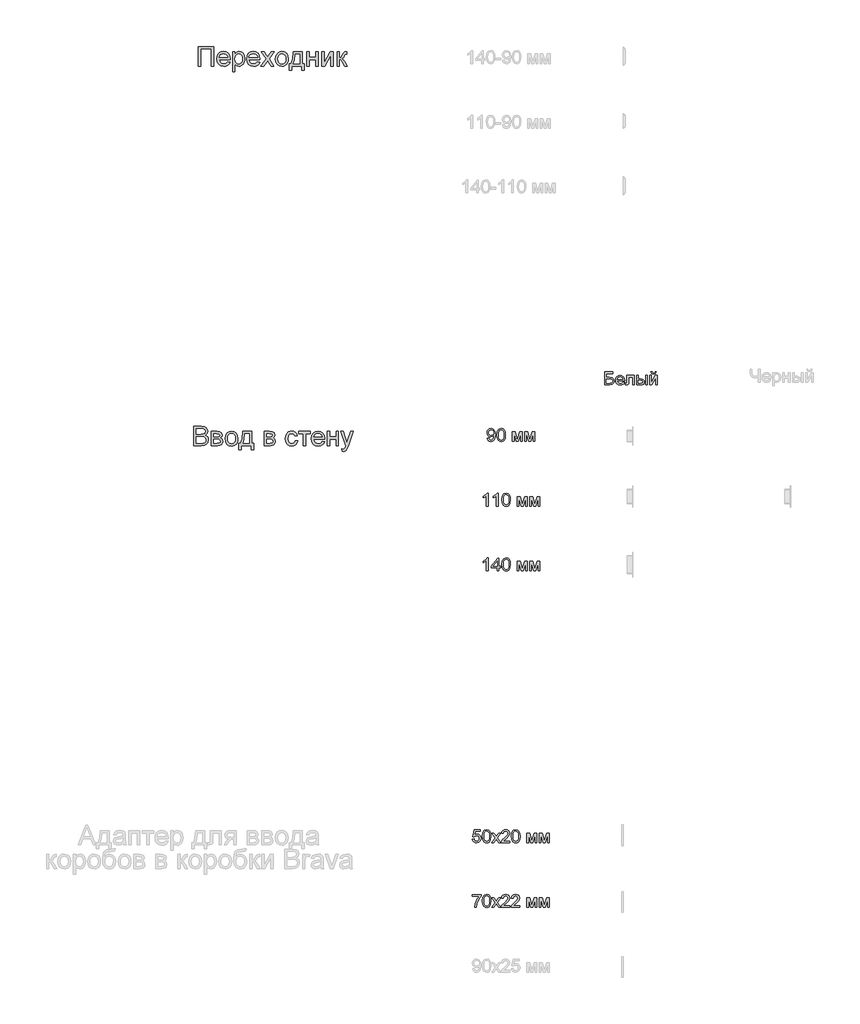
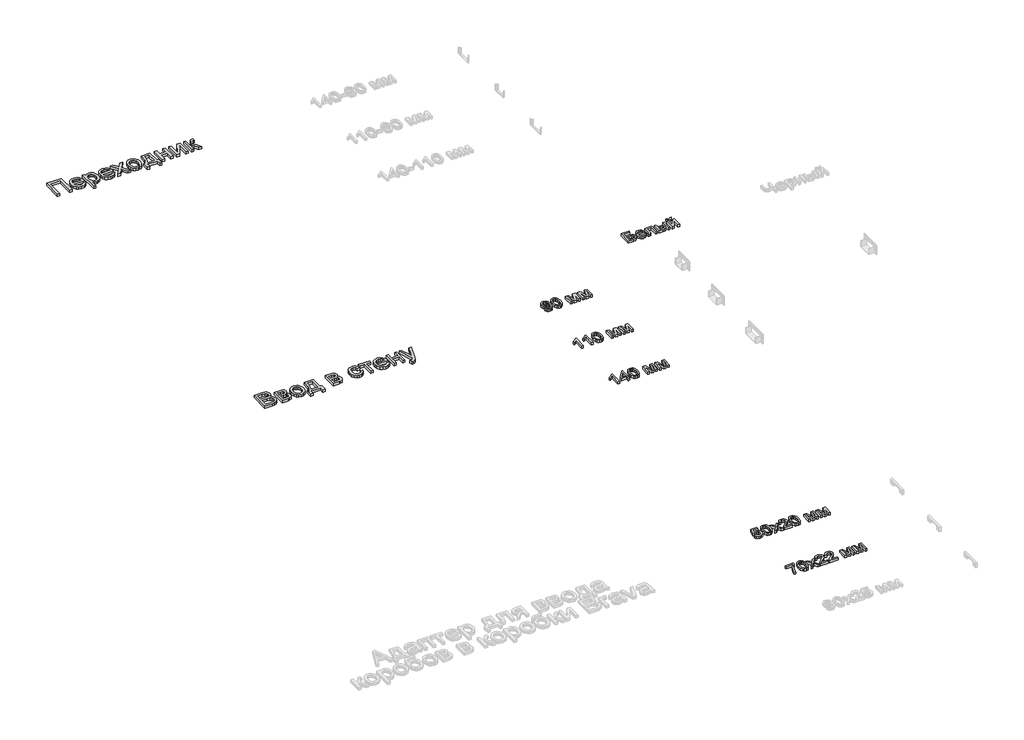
# One storey, part 5 of 48: 8 proxies.
"""IFC4 building model written with IfcOpenShell, lengths in millimetres."""

from ifc_helpers import new_model, si_unit, origin, origin_with_axes, place, context, project, spatial, polyline, outline, extrude, element, save

model = new_model("IFC4")

# Units and contexts
model_context = context("Model", 3, world=origin())
ifc_project = project(units=[si_unit("LENGTHUNIT", "METRE", prefix="MILLI")], contexts=[model_context])

# Site, building, storey
site = spatial("IfcSite", under=ifc_project)
building = spatial("IfcBuilding", under=site)
storey = spatial("IfcBuildingStorey", under=building, Name="Этаж 01", Elevation=0.0)

# Proxies
placement = place(None, origin())
element("IfcBuildingElementProxy", 1, Name="150 мм Arial", ObjectType="150 мм Arial", at=placement, inside=storey, context=model_context, shape_type="SweptSolid", body=[
    extrude(outline(polyline([(9672.1044953, -29075.3545442), (9789.8267338, -29075.3545442), (9789.8267338, -29226.0390094), (9770.9911756, -29226.0390094), (9770.9911756, -29094.1901023), (9690.9400535, -29094.1901023), (9690.9400535, -29226.0390094), (9672.1044953, -29226.0390094), (9672.1044953, -29075.3545442)])), origin_with_axes(), (0.0, 0.0, 1.0), 20.0),
    extrude(outline(polyline([(9897.910464, -29193.0767827), (9916.3781401, -29195.4312274), (9909.7240745, -29209.3463639), (9899.1060804, -29219.7482273), (9884.7632812, -29226.2321475), (9866.9348, -29228.3934542), (9844.8342891, -29224.6640505), (9827.8289439, -29213.4758393), (9816.9856221, -29195.5553876), (9813.3711815, -29171.6292623), (9817.0224103, -29146.8983952), (9827.9760967, -29128.4031279), (9844.7515157, -29116.8700273), (9865.8679422, -29113.0256605), (9886.3267796, -29116.8608303), (9902.6745358, -29128.3663397), (9913.3936974, -29146.8248188), (9916.9667513, -29171.5188977), (9916.8563867, -29176.5956693), (9832.2067396, -29176.5956693), (9835.4670938, -29190.6947467), (9843.0408644, -29201.0598219), (9853.9715582, -29207.4333775), (9867.302682, -29209.557896), (9885.7703581, -29205.6215587), (9897.910464, -29193.0767827)]), holes=[polyline([(9832.2067396, -29157.7601111), (9898.1311932, -29157.7601111), (9895.5836103, -29147.8089031), (9890.5896123, -29140.6903865), (9879.6083347, -29134.0685106), (9865.7943658, -29131.8612187), (9853.0978384, -29133.6224537), (9842.599406, -29138.9061589), (9835.3015469, -29147.142117), (9832.2067396, -29157.7601111)])]), origin_with_axes(), (0.0, 0.0, 1.0), 20.0),
    extrude(outline(polyline([(9935.8023095, -29268.4190153), (9935.8023095, -29115.3801053), (9954.6378676, -29115.3801053), (9954.6378676, -29133.8477814), (9967.6608902, -29118.2311907), (9985.2456496, -29113.0256605), (9997.9835637, -29114.8466764), (10009.1211911, -29120.309724), (10018.1894823, -29129.0837096), (10024.7193877, -29140.8375393), (10029.9801002, -29169.8634288), (10028.4947767, -29185.9720616), (10024.038806, -29200.3792403), (10016.7547425, -29212.3537992), (10006.7851404, -29221.164573), (9995.173865, -29226.5862339), (9982.9647812, -29228.3934542), (9966.5756384, -29223.555806), (9954.6378676, -29211.3237296), (9954.6378676, -29268.4190153), (9935.8023095, -29268.4190153)]), holes=[polyline([(9954.6378676, -29171.5924741), (9956.6750142, -29188.4782577), (9962.7864538, -29200.2872698), (9971.8041612, -29207.2402395), (9982.5601111, -29209.557896), (9993.4908048, -29207.157466), (10002.7384385, -29199.956176), (10009.0430162, -29187.7149026), (10011.1445421, -29170.1945226), (10009.0936, -29153.4007095), (10002.9407736, -29141.4261505), (9993.9368618, -29134.2524516), (9983.3326632, -29131.8612187), (9972.687078, -29134.4042029), (9963.3382768, -29142.0331558), (9956.8129699, -29154.508954), (9954.6378676, -29171.5924741)])]), origin_with_axes(), (0.0, 0.0, 1.0), 20.0),
    extrude(outline(polyline([(10128.6460513, -29193.0767827), (10147.1137275, -29195.4312274), (10140.4596619, -29209.3463639), (10129.8416678, -29219.7482273), (10115.4988685, -29226.2321475), (10097.6703873, -29228.3934542), (10075.5698765, -29224.6640505), (10058.5645313, -29213.4758393), (10047.7212095, -29195.5553876), (10044.1067688, -29171.6292623), (10047.7579976, -29146.8983952), (10058.7116841, -29128.4031279), (10075.487103, -29116.8700273), (10096.6035296, -29113.0256605), (10117.062367, -29116.8608303), (10133.4101232, -29128.3663397), (10144.1292848, -29146.8248188), (10147.7023387, -29171.5188977), (10147.5919741, -29176.5956693), (10062.942327, -29176.5956693), (10066.2026812, -29190.6947467), (10073.7764518, -29201.0598219), (10084.7071455, -29207.4333775), (10098.0382693, -29209.557896), (10116.5059455, -29205.6215587), (10128.6460513, -29193.0767827)]), holes=[polyline([(10062.942327, -29157.7601111), (10128.8667805, -29157.7601111), (10126.3191977, -29147.8089031), (10121.3251996, -29140.6903865), (10110.3439221, -29134.0685106), (10096.5299532, -29131.8612187), (10083.8334258, -29133.6224537), (10073.3349934, -29138.9061589), (10066.0371343, -29147.142117), (10062.942327, -29157.7601111)])]), origin_with_axes(), (0.0, 0.0, 1.0), 20.0),
    extrude(outline(polyline([(10154.765673, -29226.0390094), (10195.0119633, -29170.4152517), (10157.1201178, -29115.3801053), (10179.7816487, -29115.3801053), (10198.0653838, -29141.8676089), (10206.6002461, -29154.3755968), (10213.9946742, -29144.1484773), (10234.8167951, -29115.3801053), (10257.478326, -29115.3801053), (10217.6734942, -29170.4152517), (10256.0067981, -29226.0390094), (10233.3452672, -29226.0390094), (10210.2790661, -29192.5985361), (10206.0484231, -29186.4916949), (10177.4272039, -29226.0390094), (10154.765673, -29226.0390094)])), origin_with_axes(), (0.0, 0.0, 1.0), 20.0),
    extrude(outline(polyline([(10267.7790219, -29170.7095573), (10271.853315, -29144.0289156), (10284.0761943, -29125.2761309), (10299.1777502, -29116.0882781), (10317.2591503, -29113.0256605), (10337.0466031, -29116.7550642), (10352.8517333, -29127.9432754), (10363.21221, -29145.7073772), (10366.6657022, -29169.164453), (10365.1389919, -29188.1931492), (10360.5588611, -29202.6785027), (10353.0586669, -29213.5264231), (10342.7717666, -29221.6428196), (10330.5534859, -29226.7057955), (10317.2591503, -29228.3934542), (10297.2325742, -29224.677846), (10281.445838, -29213.5310216), (10271.1957259, -29195.3944392), (10267.7790219, -29170.7095573)]), holes=[polyline([(10286.6145801, -29170.6727691), (10288.7942809, -29187.7195011), (10295.3333834, -29199.8642055), (10305.1742267, -29207.1344734), (10317.2591503, -29209.557896), (10329.2888915, -29207.1206778), (10339.1113408, -29199.8090232), (10345.6504432, -29187.5033704), (10347.8301441, -29170.084158), (10345.6366477, -29153.5340667), (10339.0561585, -29141.5549092), (10329.2199136, -29134.2846413), (10317.2591503, -29131.8612187), (10305.1742267, -29134.2754442), (10295.3333834, -29141.518121), (10288.7942809, -29153.6352342), (10286.6145801, -29170.6727691)])]), origin_with_axes(), (0.0, 0.0, 1.0), 20.0),
    extrude(outline(polyline([(10404.3368185, -29115.3801053), (10474.9701616, -29115.3801053), (10474.9701616, -29207.2034513), (10489.0968302, -29207.2034513), (10489.0968302, -29256.6467914), (10470.2612721, -29256.6467914), (10470.2612721, -29226.0390094), (10392.5645947, -29226.0390094), (10392.5645947, -29256.6467914), (10373.7290365, -29256.6467914), (10373.7290365, -29207.2034513), (10385.5012604, -29207.2034513), (10394.0591153, -29191.7386119), (10400.0509933, -29171.2797744), (10404.3368185, -29115.3801053)]), holes=[polyline([(10420.8179319, -29134.2156634), (10416.403348, -29177.1290982), (10406.6912633, -29207.2034513), (10456.1346034, -29207.2034513), (10456.1346034, -29134.2156634), (10420.8179319, -29134.2156634)])]), origin_with_axes(), (0.0, 0.0, 1.0), 20.0),
    extrude(outline(polyline([(10510.2868331, -29115.3801053), (10529.1223913, -29115.3801053), (10529.1223913, -29157.7601111), (10578.5657314, -29157.7601111), (10578.5657314, -29115.3801053), (10597.4012896, -29115.3801053), (10597.4012896, -29226.0390094), (10578.5657314, -29226.0390094), (10578.5657314, -29176.5956693), (10529.1223913, -29176.5956693), (10529.1223913, -29226.0390094), (10510.2868331, -29226.0390094), (10510.2868331, -29115.3801053)])), origin_with_axes(), (0.0, 0.0, 1.0), 20.0),
    extrude(outline(polyline([(10625.6546268, -29115.3801053), (10644.490185, -29115.3801053), (10644.490185, -29199.772235), (10690.76974, -29115.3801053), (10715.123528, -29115.3801053), (10715.123528, -29226.0390094), (10696.2879699, -29226.0390094), (10696.2879699, -29142.1619145), (10650.3027205, -29226.0390094), (10625.6546268, -29226.0390094), (10625.6546268, -29115.3801053)])), origin_with_axes(), (0.0, 0.0, 1.0), 20.0),
    extrude(outline(polyline([(10743.3768653, -29115.3801053), (10762.2124234, -29115.3801053), (10762.2124234, -29162.4690007), (10774.8307759, -29159.0844863), (10785.1682599, -29139.3660114), (10793.7583045, -29122.3514691), (10801.3366736, -29116.8148451), (10815.1138543, -29115.3801053), (10818.7190979, -29115.3801053), (10818.7190979, -29134.326028), (10813.6423264, -29134.2156634), (10804.4452765, -29136.2022262), (10797.9705534, -29148.5998494), (10790.3737902, -29162.0091482), (10779.7236064, -29168.5758418), (10791.6061948, -29175.9058905), (10803.2680541, -29191.3477373), (10823.4279874, -29226.0390094), (10802.0172553, -29226.0390094), (10782.2619922, -29192.0835013), (10772.3291783, -29177.7177094), (10762.2124234, -29174.2412245), (10762.2124234, -29226.0390094), (10743.3768653, -29226.0390094), (10743.3768653, -29115.3801053)])), origin_with_axes(), (0.0, 0.0, 1.0), 20.0),
])
element("IfcBuildingElementProxy", 2, Name="150 мм Arial", ObjectType="150 мм Arial", at=placement, inside=storey, context=model_context, shape_type="SweptSolid", body=[
    extrude(outline(polyline([(9636.0075614, -32159.7913554), (9636.0075614, -32009.1068902), (9693.5075173, -32009.1068902), (9721.668884, -32013.5398682), (9731.1326483, -32019.1638642), (9738.2971502, -32027.1698962), (9744.3120208, -32046.4469127), (9739.2536434, -32064.0500662), (9723.9681465, -32077.3857885), (9734.6413229, -32082.9592007), (9742.5277931, -32091.4388807), (9747.397631, -32102.2638084), (9749.0209104, -32114.8729638), (9744.5879323, -32135.1248676), (9733.6066548, -32149.5458419), (9717.2175119, -32157.1977874), (9693.0660589, -32159.7913554), (9636.0075614, -32159.7913554)]), holes=[polyline([(9654.8431196, -32070.3224542), (9689.2400861, -32070.3224542), (9709.3264431, -32068.7037734), (9721.4113666, -32061.7324096), (9725.4764627, -32049.4635451), (9721.6872781, -32037.1762864), (9710.8347593, -32029.910617), (9686.628124, -32027.9424483), (9654.8431196, -32027.9424483), (9654.8431196, -32070.3224542)]), polyline([(9654.8431196, -32140.9557973), (9693.4707291, -32140.9557973), (9707.4502449, -32140.2200333), (9719.277651, -32136.118149), (9727.1135375, -32127.7488336), (9730.1853522, -32115.0569048), (9726.5801086, -32100.4152014), (9714.8998553, -32091.678004), (9691.6313191, -32089.1580123), (9654.8431196, -32089.1580123), (9654.8431196, -32140.9557973)])]), origin_with_axes(), (0.0, 0.0, 1.0), 20.0),
    extrude(outline(polyline([(9772.565358, -32049.1324513), (9814.0624471, -32049.1324513), (9836.8159485, -32051.6524429), (9849.6182419, -32060.886281), (9854.970925, -32076.9811183), (9851.7335634, -32090.0593232), (9841.9846905, -32099.3851318), (9854.6398312, -32109.5938572), (9859.6798145, -32127.3441634), (9856.4884382, -32141.7007583), (9848.900872, -32151.8083161), (9836.8895249, -32157.7955956), (9820.4268056, -32159.7913554), (9772.565358, -32159.7913554), (9772.565358, -32049.1324513)]), holes=[polyline([(9791.4009162, -32091.5124571), (9810.0157452, -32091.5124571), (9825.3748185, -32090.5559639), (9832.842823, -32086.7299912), (9836.1353668, -32079.8138097), (9834.69143, -32074.1944122), (9830.3596195, -32070.5799716), (9810.6043563, -32067.9680094), (9791.4009162, -32067.9680094), (9791.4009162, -32091.5124571)]), polyline([(9791.4009162, -32140.9557973), (9814.5039055, -32140.9557973), (9834.9949326, -32137.5528888), (9839.2347726, -32132.9129771), (9840.8442563, -32125.7990591), (9837.6252889, -32116.7307679), (9829.2375794, -32111.4516613), (9812.6644955, -32110.3480153), (9791.4009162, -32110.3480153), (9791.4009162, -32140.9557973)])]), origin_with_axes(), (0.0, 0.0, 1.0), 20.0),
    extrude(outline(polyline([(9878.5153727, -32104.4619033), (9882.5896658, -32077.7812616), (9894.812545, -32059.0284769), (9909.9141009, -32049.8406241), (9927.995501, -32046.7780065), (9947.7829538, -32050.5074102), (9963.588084, -32061.6956214), (9973.9485607, -32079.4597232), (9977.402053, -32102.916799), (9975.8753427, -32121.9454952), (9971.2952118, -32136.4308487), (9963.7950177, -32147.2787691), (9953.5081174, -32155.3951656), (9941.2898366, -32160.4581415), (9927.995501, -32162.1458002), (9907.9689249, -32158.430192), (9892.1821888, -32147.2833676), (9881.9320767, -32129.1467852), (9878.5153727, -32104.4619033)]), holes=[polyline([(9897.3509308, -32104.4251151), (9899.5306316, -32121.4718471), (9906.0697341, -32133.6165515), (9915.9105775, -32140.8868194), (9927.995501, -32143.310242), (9940.0252422, -32140.8730238), (9949.8476915, -32133.5613692), (9956.386794, -32121.2557164), (9958.5664948, -32103.836504), (9956.3729984, -32087.2864127), (9949.7925092, -32075.3072552), (9939.9562644, -32068.0369873), (9927.995501, -32065.6135647), (9915.9105775, -32068.0277902), (9906.0697341, -32075.270467), (9899.5306316, -32087.3875802), (9897.3509308, -32104.4251151)])]), origin_with_axes(), (0.0, 0.0, 1.0), 20.0),
    extrude(outline(polyline([(10015.0731693, -32049.1324513), (10085.7065123, -32049.1324513), (10085.7065123, -32140.9557973), (10099.833181, -32140.9557973), (10099.833181, -32190.3991374), (10080.9976228, -32190.3991374), (10080.9976228, -32159.7913554), (10003.3009454, -32159.7913554), (10003.3009454, -32190.3991374), (9984.4653873, -32190.3991374), (9984.4653873, -32140.9557973), (9996.2376111, -32140.9557973), (10004.795466, -32125.4909579), (10010.787344, -32105.0321204), (10015.0731693, -32049.1324513)]), holes=[polyline([(10031.5542826, -32067.9680094), (10027.1396987, -32110.8814442), (10017.427614, -32140.9557973), (10066.8709542, -32140.9557973), (10066.8709542, -32067.9680094), (10031.5542826, -32067.9680094)])]), origin_with_axes(), (0.0, 0.0, 1.0), 20.0),
    extrude(outline(polyline([(10179.8843031, -32049.1324513), (10221.3813922, -32049.1324513), (10244.1348936, -32051.6524429), (10256.937187, -32060.886281), (10262.28987, -32076.9811183), (10259.0525085, -32090.0593232), (10249.3036356, -32099.3851318), (10261.9587762, -32109.5938572), (10266.9987596, -32127.3441634), (10263.8073833, -32141.7007583), (10256.2198171, -32151.8083161), (10244.20847, -32157.7955956), (10227.7457507, -32159.7913554), (10179.8843031, -32159.7913554), (10179.8843031, -32049.1324513)]), holes=[polyline([(10198.7198613, -32091.5124571), (10217.3346902, -32091.5124571), (10232.6937635, -32090.5559639), (10240.161768, -32086.7299912), (10243.4543119, -32079.8138097), (10242.010375, -32074.1944122), (10237.6785645, -32070.5799716), (10217.9233014, -32067.9680094), (10198.7198613, -32067.9680094), (10198.7198613, -32091.5124571)]), polyline([(10198.7198613, -32140.9557973), (10221.8228506, -32140.9557973), (10242.3138777, -32137.5528888), (10246.5537177, -32132.9129771), (10248.1632014, -32125.7990591), (10244.944234, -32116.7307679), (10236.5565245, -32111.4516613), (10219.9834406, -32110.3480153), (10198.7198613, -32110.3480153), (10198.7198613, -32140.9557973)])]), origin_with_axes(), (0.0, 0.0, 1.0), 20.0),
    extrude(outline(polyline([(10420.0376696, -32119.7657943), (10438.8732277, -32122.1202391), (10433.6217122, -32138.8726655), (10423.7532777, -32151.5324046), (10410.1968262, -32159.4924513), (10393.8812597, -32162.1458002), (10373.8454865, -32158.4439876), (10358.1783121, -32147.3385499), (10348.0661557, -32129.3169306), (10344.6954369, -32104.8665735), (10346.1347753, -32088.1049501), (10350.4527902, -32073.5782098), (10357.7184596, -32061.8473727), (10368.0007613, -32053.4734588), (10380.3018156, -32048.4518696), (10393.6237423, -32046.7780065), (10409.5392371, -32049.077269), (10422.2633556, -32055.9750564), (10431.3914276, -32067.1034867), (10436.5187829, -32082.094678), (10417.6832248, -32084.4491228), (10408.9460274, -32070.3408483), (10393.7708951, -32065.6135647), (10381.5985996, -32067.9404183), (10371.9370987, -32074.9209791), (10365.632521, -32086.9323263), (10363.5309951, -32104.3515387), (10365.5865357, -32122.005276), (10371.7531577, -32134.0580099), (10381.2399146, -32140.997184), (10393.2558603, -32143.310242), (10403.0093317, -32141.8663052), (10411.0061666, -32137.5344947), (10416.8233006, -32130.204446), (10420.0376696, -32119.7657943)])), origin_with_axes(), (0.0, 0.0, 1.0), 20.0),
    extrude(outline(polyline([(10445.936562, -32049.1324513), (10535.4054632, -32049.1324513), (10535.4054632, -32067.9680094), (10500.0887917, -32067.9680094), (10500.0887917, -32159.7913554), (10481.2532336, -32159.7913554), (10481.2532336, -32067.9680094), (10445.936562, -32067.9680094), (10445.936562, -32049.1324513)])), origin_with_axes(), (0.0, 0.0, 1.0), 20.0),
    extrude(outline(polyline([(10629.3625248, -32126.8291287), (10647.830201, -32129.1835734), (10641.1761354, -32143.0987099), (10630.5581413, -32153.5005733), (10616.215342, -32159.9844935), (10598.3868608, -32162.1458002), (10576.28635, -32158.4163965), (10559.2810047, -32147.2281853), (10548.4376829, -32129.3077336), (10544.8232423, -32105.3816083), (10548.4744711, -32080.6507412), (10559.4281575, -32062.1554739), (10576.2035765, -32050.6223733), (10597.320003, -32046.7780065), (10617.7788405, -32050.6131763), (10634.1265966, -32062.1186857), (10644.8457583, -32080.5771648), (10648.4188122, -32105.2712437), (10648.3084476, -32110.3480153), (10563.6588005, -32110.3480153), (10566.9191547, -32124.4470927), (10574.4929252, -32134.8121679), (10585.423619, -32141.1857235), (10598.7547428, -32143.310242), (10617.222419, -32139.3739047), (10629.3625248, -32126.8291287)]), holes=[polyline([(10563.6588005, -32091.5124571), (10629.583254, -32091.5124571), (10627.0356712, -32081.5612491), (10622.0416731, -32074.4427325), (10611.0603956, -32067.8208566), (10597.2464266, -32065.6135647), (10584.5498993, -32067.3747997), (10574.0514668, -32072.6585049), (10566.7536078, -32080.894463), (10563.6588005, -32091.5124571)])]), origin_with_axes(), (0.0, 0.0, 1.0), 20.0),
    extrude(outline(polyline([(10667.2543703, -32049.1324513), (10686.0899285, -32049.1324513), (10686.0899285, -32091.5124571), (10735.5332686, -32091.5124571), (10735.5332686, -32049.1324513), (10754.3688268, -32049.1324513), (10754.3688268, -32159.7913554), (10735.5332686, -32159.7913554), (10735.5332686, -32110.3480153), (10686.0899285, -32110.3480153), (10686.0899285, -32159.7913554), (10667.2543703, -32159.7913554), (10667.2543703, -32049.1324513)])), origin_with_axes(), (0.0, 0.0, 1.0), 20.0),
    extrude(outline(polyline([(10782.622164, -32202.1713613), (10780.2677192, -32184.0347789), (10789.8326511, -32185.6902479), (10798.7721836, -32183.6117146), (10804.2536253, -32177.8175732), (10809.4039733, -32163.948422), (10810.8755012, -32159.3866852), (10770.8499402, -32049.1324513), (10790.7155679, -32049.1324513), (10811.942359, -32110.5687445), (10819.3367871, -32135.1432617), (10826.7312152, -32113.438224), (10848.5466175, -32049.1324513), (10868.2650925, -32049.1324513), (10829.7478476, -32162.4401058), (10819.7414573, -32187.0146231), (10808.8153621, -32200.2951631), (10794.1368705, -32204.525806), (10782.622164, -32202.1713613)])), origin_with_axes(), (0.0, 0.0, 1.0), 20.0),
])
element("IfcBuildingElementProxy", 3, Name="100 мм Arial", ObjectType="100 мм Arial", at=placement, inside=storey, context=model_context, shape_type="SweptSolid", body=[
    extrude(outline(polyline([(11903.6293388, -32101.3348083), (11916.1863775, -32099.7651784), (11921.8272348, -32111.7458687), (11932.5203381, -32115.4614769), (11942.6861439, -32113.0702439), (11949.5778, -32106.6813599), (11953.6858156, -32095.7675274), (11955.5007001, -32081.1994004), (11955.4271237, -32078.7468538), (11945.3839452, -32088.2627347), (11931.6128959, -32091.9170292), (11920.1625688, -32089.6852118), (11910.6313594, -32082.9897595), (11904.2026216, -32072.646144), (11902.0597089, -32059.4698372), (11904.3068548, -32045.8582034), (11911.0482923, -32035.1896256), (11921.1742443, -32028.2918381), (11933.5749332, -32025.9925757), (11951.4662609, -32031.2410255), (11963.778045, -32046.2015599), (11967.9841625, -32074.3077444), (11963.7903077, -32104.8051618), (11958.5755804, -32114.7962236), (11951.3191081, -32122.0833528), (11942.3335904, -32126.534725), (11931.9317269, -32128.0185157), (11921.195704, -32126.2680105), (11912.6301849, -32121.016495), (11906.6398398, -32112.595063), (11903.6293388, -32101.3348083)]), holes=[polyline([(11955.4271237, -32059.1755316), (11954.0720917, -32050.6651948), (11950.0069956, -32044.1168953), (11943.6978194, -32039.9414347), (11935.6105469, -32038.5496144), (11927.2228374, -32040.0487336), (11920.5028596, -32044.546091), (11916.0882757, -32051.42855), (11914.6167477, -32060.0829739), (11916.0085679, -32067.8422183), (11920.1840286, -32074.001176), (11926.7384594, -32078.0202868), (11935.2671904, -32079.3599904), (11949.7494782, -32074.001176), (11954.0077123, -32067.6153577), (11955.4271237, -32059.1755316)])]), origin_with_axes(), (0.0, 0.0, 1.0), 20.0),
    extrude(outline(polyline([(11978.9715714, -32077.0300711), (11982.6626541, -32048.126809), (11993.6255375, -32031.4617547), (12011.9337982, -32025.9925757), (12026.600027, -32029.2299372), (12036.7290446, -32038.5618772), (12042.6151566, -32053.4243098), (12044.8960249, -32077.0300711), (12041.2417304, -32105.8107059), (12030.3156352, -32122.5125485), (12022.0842755, -32126.6420239), (12011.9337982, -32128.0185157), (11998.8862501, -32125.6272827), (11988.9779617, -32118.4535838), (11981.473169, -32101.463567), (11978.9715714, -32077.0300711)]), holes=[polyline([(11991.5286102, -32077.0055457), (11993.0001381, -32096.7577431), (11997.4147221, -32108.1896761), (12003.9875471, -32113.6435267), (12011.9337982, -32115.4614769), (12019.8800493, -32113.6373953), (12026.4528742, -32108.1651507), (12030.8674582, -32096.7270863), (12032.3389862, -32077.0055457), (12030.9165091, -32057.6978723), (12026.649078, -32046.1770345), (12020.0885157, -32040.4564694), (12011.7866454, -32038.5496144), (12003.9262334, -32040.2296089), (11997.6109258, -32045.2695922), (11993.0491891, -32057.5077999), (11991.5286102, -32077.0055457)])]), origin_with_axes(), (0.0, 0.0, 1.0), 20.0),
    extrude(outline(polyline([(12098.2634397, -32052.6762831), (12119.8703755, -32052.6762831), (12136.5231672, -32111.733606), (12154.4758086, -32052.6762831), (12175.1753022, -32052.6762831), (12175.1753022, -32126.4488858), (12162.6182634, -32126.4488858), (12162.6182634, -32067.0482063), (12144.5675202, -32126.4488858), (12128.0864068, -32126.4488858), (12110.8204785, -32064.2032522), (12110.8204785, -32126.4488858), (12098.2634397, -32126.4488858), (12098.2634397, -32052.6762831)])), origin_with_axes(), (0.0, 0.0, 1.0), 20.0),
    extrude(outline(polyline([(12194.0108603, -32052.6762831), (12215.6177962, -32052.6762831), (12232.2705878, -32111.733606), (12250.2232292, -32052.6762831), (12270.9227228, -32052.6762831), (12270.9227228, -32126.4488858), (12258.365684, -32126.4488858), (12258.365684, -32067.0482063), (12240.3149408, -32126.4488858), (12223.8338274, -32126.4488858), (12206.5678991, -32064.2032522), (12206.5678991, -32126.4488858), (12194.0108603, -32126.4488858), (12194.0108603, -32052.6762831)])), origin_with_axes(), (0.0, 0.0, 1.0), 20.0),
])
element("IfcBuildingElementProxy", 4, Name="100 мм Arial", ObjectType="100 мм Arial", at=placement, inside=storey, context=model_context, shape_type="SweptSolid", body=[
    extrude(outline(polyline([(11910.6926731, -32626.4488858), (11898.1356343, -32626.4488858), (11898.1356343, -32548.1635972), (11886.2407831, -32556.6371459), (11873.0215568, -32562.9769789), (11873.0215568, -32551.1066532), (11891.4279193, -32539.3589548), (11902.5992692, -32525.9925757), (11910.6926731, -32525.9925757), (11910.6926731, -32626.4488858)])), origin_with_axes(), (0.0, 0.0, 1.0), 20.0),
    extrude(outline(polyline([(11987.6045355, -32626.4488858), (11975.0474968, -32626.4488858), (11975.0474968, -32548.1635972), (11963.1526456, -32556.6371459), (11949.9334192, -32562.9769789), (11949.9334192, -32551.1066532), (11968.3397817, -32539.3589548), (11979.5111316, -32525.9925757), (11987.6045355, -32525.9925757), (11987.6045355, -32626.4488858)])), origin_with_axes(), (0.0, 0.0, 1.0), 20.0),
    extrude(outline(polyline([(12017.4275026, -32577.0300711), (12021.1185853, -32548.126809), (12032.0814688, -32531.4617547), (12050.3897294, -32525.9925757), (12065.0559583, -32529.2299372), (12075.1849759, -32538.5618772), (12081.0710878, -32553.4243098), (12083.3519562, -32577.0300711), (12079.6976617, -32605.8107059), (12068.7715664, -32622.5125485), (12060.5402068, -32626.6420239), (12050.3897294, -32628.0185157), (12037.3421813, -32625.6272827), (12027.4338929, -32618.4535838), (12019.9291002, -32601.463567), (12017.4275026, -32577.0300711)]), holes=[polyline([(12029.9845414, -32577.0055457), (12031.4560694, -32596.7577431), (12035.8706533, -32608.1896761), (12042.4434783, -32613.6435267), (12050.3897294, -32615.4614769), (12058.3359805, -32613.6373953), (12064.9088055, -32608.1651507), (12069.3233894, -32596.7270863), (12070.7949174, -32577.0055457), (12069.3724403, -32557.6978723), (12065.1050092, -32546.1770345), (12058.5444469, -32540.4564694), (12050.2425766, -32538.5496144), (12042.3821646, -32540.2296089), (12036.066857, -32545.2695922), (12031.5051203, -32557.5077999), (12029.9845414, -32577.0055457)])]), origin_with_axes(), (0.0, 0.0, 1.0), 20.0),
    extrude(outline(polyline([(12136.7193709, -32552.6762831), (12158.3263068, -32552.6762831), (12174.9790984, -32611.733606), (12192.9317398, -32552.6762831), (12213.6312334, -32552.6762831), (12213.6312334, -32626.4488858), (12201.0741946, -32626.4488858), (12201.0741946, -32567.0482063), (12183.0234514, -32626.4488858), (12166.542338, -32626.4488858), (12149.2764097, -32564.2032522), (12149.2764097, -32626.4488858), (12136.7193709, -32626.4488858), (12136.7193709, -32552.6762831)])), origin_with_axes(), (0.0, 0.0, 1.0), 20.0),
    extrude(outline(polyline([(12232.4667915, -32552.6762831), (12254.0737274, -32552.6762831), (12270.726519, -32611.733606), (12288.6791604, -32552.6762831), (12309.378654, -32552.6762831), (12309.378654, -32626.4488858), (12296.8216152, -32626.4488858), (12296.8216152, -32567.0482063), (12278.770872, -32626.4488858), (12262.2897586, -32626.4488858), (12245.0238303, -32564.2032522), (12245.0238303, -32626.4488858), (12232.4667915, -32626.4488858), (12232.4667915, -32552.6762831)])), origin_with_axes(), (0.0, 0.0, 1.0), 20.0),
])
element("IfcBuildingElementProxy", 5, Name="100 мм Arial", ObjectType="100 мм Arial", at=placement, inside=storey, context=model_context, shape_type="SweptSolid", body=[
    extrude(outline(polyline([(11910.6926731, -33126.4488858), (11898.1356343, -33126.4488858), (11898.1356343, -33048.1635972), (11886.2407831, -33056.6371459), (11873.0215568, -33062.9769789), (11873.0215568, -33051.1066532), (11891.4279193, -33039.3589548), (11902.5992692, -33025.9925757), (11910.6926731, -33025.9925757), (11910.6926731, -33126.4488858)])), origin_with_axes(), (0.0, 0.0, 1.0), 20.0),
    extrude(outline(polyline([(11981.3260162, -33126.4488858), (11981.3260162, -33102.9044381), (11935.8067506, -33102.9044381), (11935.8067506, -33090.3473994), (11984.4652759, -33027.5622055), (11993.8830549, -33027.5622055), (11993.8830549, -33090.3473994), (12006.4400937, -33090.3473994), (12006.4400937, -33102.9044381), (11993.8830549, -33102.9044381), (11993.8830549, -33126.4488858), (11981.3260162, -33126.4488858)]), holes=[polyline([(11981.3260162, -33090.3473994), (11981.3260162, -33051.5481116), (11951.2577944, -33090.3473994), (11981.3260162, -33090.3473994)])]), origin_with_axes(), (0.0, 0.0, 1.0), 20.0),
    extrude(outline(polyline([(12017.4275026, -33077.0300711), (12021.1185853, -33048.126809), (12032.0814688, -33031.4617547), (12050.3897294, -33025.9925757), (12065.0559583, -33029.2299372), (12075.1849759, -33038.5618772), (12081.0710878, -33053.4243098), (12083.3519562, -33077.0300711), (12079.6976617, -33105.8107059), (12068.7715664, -33122.5125485), (12060.5402068, -33126.6420239), (12050.3897294, -33128.0185157), (12037.3421813, -33125.6272827), (12027.4338929, -33118.4535838), (12019.9291002, -33101.463567), (12017.4275026, -33077.0300711)]), holes=[polyline([(12029.9845414, -33077.0055457), (12031.4560694, -33096.7577431), (12035.8706533, -33108.1896761), (12042.4434783, -33113.6435267), (12050.3897294, -33115.4614769), (12058.3359805, -33113.6373953), (12064.9088055, -33108.1651507), (12069.3233894, -33096.7270863), (12070.7949174, -33077.0055457), (12069.3724403, -33057.6978723), (12065.1050092, -33046.1770345), (12058.5444469, -33040.4564694), (12050.2425766, -33038.5496144), (12042.3821646, -33040.2296089), (12036.066857, -33045.2695922), (12031.5051203, -33057.5077999), (12029.9845414, -33077.0055457)])]), origin_with_axes(), (0.0, 0.0, 1.0), 20.0),
    extrude(outline(polyline([(12136.7193709, -33052.6762831), (12158.3263068, -33052.6762831), (12174.9790984, -33111.733606), (12192.9317398, -33052.6762831), (12213.6312334, -33052.6762831), (12213.6312334, -33126.4488858), (12201.0741946, -33126.4488858), (12201.0741946, -33067.0482063), (12183.0234514, -33126.4488858), (12166.542338, -33126.4488858), (12149.2764097, -33064.2032522), (12149.2764097, -33126.4488858), (12136.7193709, -33126.4488858), (12136.7193709, -33052.6762831)])), origin_with_axes(), (0.0, 0.0, 1.0), 20.0),
    extrude(outline(polyline([(12232.4667915, -33052.6762831), (12254.0737274, -33052.6762831), (12270.726519, -33111.733606), (12288.6791604, -33052.6762831), (12309.378654, -33052.6762831), (12309.378654, -33126.4488858), (12296.8216152, -33126.4488858), (12296.8216152, -33067.0482063), (12278.770872, -33126.4488858), (12262.2897586, -33126.4488858), (12245.0238303, -33064.2032522), (12245.0238303, -33126.4488858), (12232.4667915, -33126.4488858), (12232.4667915, -33052.6762831)])), origin_with_axes(), (0.0, 0.0, 1.0), 20.0),
])
element("IfcBuildingElementProxy", 6, Name="100 мм Arial", ObjectType="100 мм Arial", at=placement, inside=storey, context=model_context, shape_type="SweptSolid", body=[
    extrude(outline(polyline([(12811.066508, -31589.5825796), (12873.8517019, -31589.5825796), (12873.8517019, -31602.1396184), (12823.6235468, -31602.1396184), (12823.6235468, -31631.9625854), (12847.143469, -31631.9625854), (12867.8674881, -31634.5132339), (12880.2037976, -31644.1517422), (12884.8391108, -31660.6328556), (12881.5404356, -31674.9434652), (12871.6934608, -31685.8205095), (12849.3998119, -31690.0388898), (12811.066508, -31690.0388898), (12811.066508, -31589.5825796)]), holes=[polyline([(12823.6235468, -31677.481851), (12850.5279834, -31677.481851), (12866.8374185, -31673.3370472), (12870.9209086, -31668.1560424), (12872.282072, -31660.9026357), (12869.1673378, -31651.0679237), (12860.4975854, -31645.8194739), (12841.5761881, -31644.5196242), (12823.6235468, -31644.5196242), (12823.6235468, -31677.481851)])]), origin_with_axes(), (0.0, 0.0, 1.0), 20.0),
    extrude(outline(polyline([(12952.1860414, -31668.0640719), (12964.4978255, -31669.6337018), (12960.0617817, -31678.9104594), (12952.983119, -31685.845035), (12943.4212528, -31690.1676484), (12931.5355987, -31691.6085196), (12916.8019248, -31689.1222504), (12905.465028, -31681.663443), (12898.2361468, -31669.7164752), (12895.8265197, -31653.765725), (12898.2606722, -31637.2784803), (12905.5631298, -31624.9483021), (12916.7467425, -31617.2595684), (12930.8243602, -31614.6966571), (12944.4635851, -31617.253437), (12955.3620893, -31624.9237766), (12962.508197, -31637.2294293), (12964.8902329, -31653.6921486), (12964.8166565, -31657.076663), (12908.3835585, -31657.076663), (12910.5571279, -31666.476048), (12915.6063083, -31673.3860981), (12922.8934375, -31677.6351351), (12931.7808534, -31679.0514808), (12944.0926375, -31676.4272559), (12952.1860414, -31668.0640719)]), holes=[polyline([(12908.3835585, -31644.5196242), (12952.3331942, -31644.5196242), (12947.3054736, -31633.1398078), (12939.9846219, -31628.7252239), (12930.7753092, -31627.2536959), (12915.3120027, -31631.9503227), (12910.4467633, -31637.4409615), (12908.3835585, -31644.5196242)])]), origin_with_axes(), (0.0, 0.0, 1.0), 20.0),
    extrude(outline(polyline([(12983.7257911, -31616.266287), (13040.2324655, -31616.266287), (13040.2324655, -31689.9653134), (13027.6754268, -31689.9653134), (13027.6754268, -31628.8233258), (12996.2828298, -31628.8233258), (12996.2828298, -31664.01737), (12995.4367013, -31680.2532287), (12990.7891254, -31687.1080965), (12979.8017165, -31690.0388898), (12969.5991225, -31689.4012276), (12969.5991225, -31677.481851), (12975.2154543, -31677.481851), (12980.8930997, -31676.7092988), (12983.1617054, -31674.2567522), (12983.7257911, -31663.3061314), (12983.7257911, -31616.266287)])), origin_with_axes(), (0.0, 0.0, 1.0), 20.0),
    extrude(outline(polyline([(13128.1317369, -31616.266287), (13140.6887757, -31616.266287), (13140.6887757, -31690.0388898), (13128.1317369, -31690.0388898), (13128.1317369, -31616.266287)])), origin_with_axes(), (0.0, 0.0, 1.0), 20.0),
    extrude(outline(polyline([(13059.0680237, -31616.266287), (13071.6250625, -31616.266287), (13071.6250625, -31642.9499944), (13087.1496827, -31642.9499944), (13100.5681784, -31644.5226899), (13110.5101894, -31649.2407765), (13116.6630157, -31656.7241094), (13118.7139578, -31666.5925439), (13116.9941095, -31675.5780617), (13111.8345645, -31683.1594964), (13102.8980977, -31688.3190414), (13089.847484, -31690.0388898), (13059.0680237, -31690.0388898), (13059.0680237, -31616.266287)]), holes=[polyline([(13071.6250625, -31677.481851), (13084.5254578, -31677.481851), (13101.1782494, -31674.8453634), (13106.1569191, -31666.6170694), (13102.4658364, -31658.8915475), (13086.168664, -31655.5070331), (13071.6250625, -31655.5070331), (13071.6250625, -31677.481851)])]), origin_with_axes(), (0.0, 0.0, 1.0), 20.0),
    extrude(outline(polyline([(13159.5243338, -31616.266287), (13172.0813726, -31616.266287), (13172.0813726, -31672.5277068), (13202.9344093, -31616.266287), (13219.170268, -31616.266287), (13219.170268, -31690.0388898), (13206.6132292, -31690.0388898), (13206.6132292, -31634.1208265), (13175.9563963, -31690.0388898), (13159.5243338, -31690.0388898), (13159.5243338, -31616.266287)])), origin_with_axes(), (0.0, 0.0, 1.0), 20.0),
    extrude(outline(polyline([(13200.3347098, -31589.5825796), (13209.7524889, -31589.5825796), (13203.6579105, -31603.5498327), (13190.1321158, -31608.4181378), (13175.4904124, -31603.5866209), (13168.9421129, -31589.5825796), (13178.359892, -31589.5825796), (13181.8915591, -31596.6581766), (13189.0039444, -31599.0003587), (13196.8030427, -31596.731753), (13200.3347098, -31589.5825796)])), origin_with_axes(), (0.0, 0.0, 1.0), 20.0),
])
element("IfcBuildingElementProxy", 7, Name="100 мм Arial", ObjectType="100 мм Arial", at=placement, inside=storey, context=model_context, shape_type="SweptSolid", body=[
    extrude(outline(polyline([(11789.8311749, -35199.7651784), (11802.3882137, -35198.1955486), (11808.715784, -35211.1327321), (11821.8369085, -35215.4614769), (11830.8377547, -35213.9562264), (11837.5822579, -35209.4404749), (11841.7945068, -35202.4353886), (11843.1985897, -35193.4621336), (11837.9378772, -35178.55065), (11831.3313297, -35174.4487658), (11822.0331122, -35173.0814711), (11811.0089151, -35175.2642376), (11803.9578436, -35180.9296203), (11791.4008048, -35179.3599904), (11802.3882137, -35127.5622055), (11851.0467389, -35127.5622055), (11851.0467389, -35140.1192443), (11812.5417568, -35140.1192443), (11807.1706796, -35167.7839703), (11816.140869, -35162.3393168), (11825.5402539, -35160.5244323), (11837.2726239, -35162.7746438), (11847.0122997, -35169.5252784), (11853.5697963, -35179.8137116), (11855.7556285, -35192.6773187), (11853.7874598, -35205.2343574), (11847.8829538, -35215.9765117), (11836.5767138, -35225.0080147), (11821.7878576, -35228.0185157), (11809.4546137, -35226.0840695), (11799.6290987, -35220.280731), (11792.8937925, -35211.2829506), (11789.8311749, -35199.7651784)])), origin_with_axes(), (0.0, 0.0, 1.0), 20.0),
    extrude(outline(polyline([(11866.7430374, -35177.0300711), (11870.4341201, -35148.126809), (11881.3970035, -35131.4617547), (11899.7052642, -35125.9925757), (11914.371493, -35129.2299372), (11924.5005106, -35138.5618772), (11930.3866226, -35153.4243098), (11932.6674909, -35177.0300711), (11929.0131964, -35205.8107059), (11918.0871012, -35222.5125485), (11909.8557415, -35226.6420239), (11899.7052642, -35228.0185157), (11886.6577161, -35225.6272827), (11876.7494277, -35218.4535838), (11869.244635, -35201.463567), (11866.7430374, -35177.0300711)]), holes=[polyline([(11879.3000762, -35177.0055457), (11880.7716041, -35196.7577431), (11885.1861881, -35208.1896761), (11891.7590131, -35213.6435267), (11899.7052642, -35215.4614769), (11907.6515153, -35213.6373953), (11914.2243402, -35208.1651507), (11918.6389242, -35196.7270863), (11920.1104522, -35177.0055457), (11918.6879751, -35157.6978723), (11914.420544, -35146.1770345), (11907.8599817, -35140.4564694), (11899.5581114, -35138.5496144), (11891.6976994, -35140.2296089), (11885.3823918, -35145.2695922), (11880.8206551, -35157.5077999), (11879.3000762, -35177.0055457)])]), origin_with_axes(), (0.0, 0.0, 1.0), 20.0),
    extrude(outline(polyline([(11938.9460103, -35226.4488858), (11965.7768705, -35189.3663807), (11940.5156402, -35152.6762831), (11955.6233274, -35152.6762831), (11967.8124842, -35170.3346188), (11973.5023924, -35178.6732774), (11978.4320111, -35171.8551977), (11992.3134251, -35152.6762831), (12007.4211124, -35152.6762831), (11980.8845578, -35189.3663807), (12006.4400937, -35226.4488858), (11991.3324064, -35226.4488858), (11975.954939, -35204.1552369), (11973.1345104, -35200.0840095), (11954.0536976, -35226.4488858), (11938.9460103, -35226.4488858)])), origin_with_axes(), (0.0, 0.0, 1.0), 20.0),
    extrude(outline(polyline([(12078.6430666, -35213.8918471), (12078.6430666, -35226.4488858), (12012.7186131, -35226.4488858), (12014.0675137, -35217.7913962), (12021.6949338, -35204.4618052), (12037.4157577, -35189.905941), (12059.0962699, -35168.9857182), (12064.516398, -35154.7609477), (12059.4028383, -35143.2462412), (12046.0487218, -35138.5496144), (12032.1305197, -35143.1358766), (12026.8452817, -35155.8155427), (12014.2882429, -35154.2459129), (12017.3324664, -35142.0996757), (12023.9144885, -35133.2275882), (12033.6909525, -35127.8013288), (12046.318502, -35125.9925757), (12059.038022, -35128.0036639), (12068.7960919, -35134.0369286), (12075.0041005, -35143.0500375), (12077.0734368, -35154.0006582), (12074.8416193, -35165.9077721), (12067.4226658, -35178.2195563), (12049.4332362, -35195.4241709), (12034.9877365, -35207.5029631), (12029.3223538, -35213.8918471), (12078.6430666, -35213.8918471)])), origin_with_axes(), (0.0, 0.0, 1.0), 20.0),
    extrude(outline(polyline([(12091.2001054, -35177.0300711), (12094.8911881, -35148.126809), (12105.8540715, -35131.4617547), (12124.1623322, -35125.9925757), (12138.828561, -35129.2299372), (12148.9575786, -35138.5618772), (12154.8436906, -35153.4243098), (12157.1245589, -35177.0300711), (12153.4702644, -35205.8107059), (12142.5441692, -35222.5125485), (12134.3128095, -35226.6420239), (12124.1623322, -35228.0185157), (12111.1147841, -35225.6272827), (12101.2064957, -35218.4535838), (12093.701703, -35201.463567), (12091.2001054, -35177.0300711)]), holes=[polyline([(12103.7571442, -35177.0055457), (12105.2286721, -35196.7577431), (12109.6432561, -35208.1896761), (12116.2160811, -35213.6435267), (12124.1623322, -35215.4614769), (12132.1085832, -35213.6373953), (12138.6814082, -35208.1651507), (12143.0959922, -35196.7270863), (12144.5675202, -35177.0055457), (12143.1450431, -35157.6978723), (12138.877612, -35146.1770345), (12132.3170497, -35140.4564694), (12124.0151794, -35138.5496144), (12116.1547674, -35140.2296089), (12109.8394598, -35145.2695922), (12105.2777231, -35157.5077999), (12103.7571442, -35177.0055457)])]), origin_with_axes(), (0.0, 0.0, 1.0), 20.0),
    extrude(outline(polyline([(12210.4919737, -35152.6762831), (12232.0989095, -35152.6762831), (12248.7517012, -35211.733606), (12266.7043426, -35152.6762831), (12287.4038361, -35152.6762831), (12287.4038361, -35226.4488858), (12274.8467974, -35226.4488858), (12274.8467974, -35167.0482063), (12256.7960541, -35226.4488858), (12240.3149408, -35226.4488858), (12223.0490125, -35164.2032522), (12223.0490125, -35226.4488858), (12210.4919737, -35226.4488858), (12210.4919737, -35152.6762831)])), origin_with_axes(), (0.0, 0.0, 1.0), 20.0),
    extrude(outline(polyline([(12306.2393943, -35152.6762831), (12327.8463301, -35152.6762831), (12344.4991218, -35211.733606), (12362.4517632, -35152.6762831), (12383.1512568, -35152.6762831), (12383.1512568, -35226.4488858), (12370.594218, -35226.4488858), (12370.594218, -35167.0482063), (12352.5434748, -35226.4488858), (12336.0623614, -35226.4488858), (12318.7964331, -35164.2032522), (12318.7964331, -35226.4488858), (12306.2393943, -35226.4488858), (12306.2393943, -35152.6762831)])), origin_with_axes(), (0.0, 0.0, 1.0), 20.0),
])
element("IfcBuildingElementProxy", 8, Name="100 мм Arial", ObjectType="100 мм Arial", at=placement, inside=storey, context=model_context, shape_type="SweptSolid", body=[
    extrude(outline(polyline([(11789.8311749, -35640.1192443), (11789.8311749, -35627.5622055), (11855.7556285, -35627.5622055), (11855.7556285, -35637.7157486), (11837.0549604, -35664.7305498), (11822.7443508, -35699.1520418), (11818.0845122, -35726.4488858), (11805.5274734, -35726.4488858), (11810.5184058, -35698.1219722), (11824.2158788, -35666.1039759), (11843.1985897, -35640.1192443), (11789.8311749, -35640.1192443)])), origin_with_axes(), (0.0, 0.0, 1.0), 20.0),
    extrude(outline(polyline([(11866.7430374, -35677.0300711), (11870.4341201, -35648.126809), (11881.3970035, -35631.4617547), (11899.7052642, -35625.9925757), (11914.371493, -35629.2299372), (11924.5005106, -35638.5618772), (11930.3866226, -35653.4243098), (11932.6674909, -35677.0300711), (11929.0131964, -35705.8107059), (11918.0871012, -35722.5125485), (11909.8557415, -35726.6420239), (11899.7052642, -35728.0185157), (11886.6577161, -35725.6272827), (11876.7494277, -35718.4535838), (11869.244635, -35701.463567), (11866.7430374, -35677.0300711)]), holes=[polyline([(11879.3000762, -35677.0055457), (11880.7716041, -35696.7577431), (11885.1861881, -35708.1896761), (11891.7590131, -35713.6435267), (11899.7052642, -35715.4614769), (11907.6515153, -35713.6373953), (11914.2243402, -35708.1651507), (11918.6389242, -35696.7270863), (11920.1104522, -35677.0055457), (11918.6879751, -35657.6978723), (11914.420544, -35646.1770345), (11907.8599817, -35640.4564694), (11899.5581114, -35638.5496144), (11891.6976994, -35640.2296089), (11885.3823918, -35645.2695922), (11880.8206551, -35657.5077999), (11879.3000762, -35677.0055457)])]), origin_with_axes(), (0.0, 0.0, 1.0), 20.0),
    extrude(outline(polyline([(11938.9460103, -35726.4488858), (11965.7768705, -35689.3663807), (11940.5156402, -35652.6762831), (11955.6233274, -35652.6762831), (11967.8124842, -35670.3346188), (11973.5023924, -35678.6732774), (11978.4320111, -35671.8551977), (11992.3134251, -35652.6762831), (12007.4211124, -35652.6762831), (11980.8845578, -35689.3663807), (12006.4400937, -35726.4488858), (11991.3324064, -35726.4488858), (11975.954939, -35704.1552369), (11973.1345104, -35700.0840095), (11954.0536976, -35726.4488858), (11938.9460103, -35726.4488858)])), origin_with_axes(), (0.0, 0.0, 1.0), 20.0),
    extrude(outline(polyline([(12078.6430666, -35713.8918471), (12078.6430666, -35726.4488858), (12012.7186131, -35726.4488858), (12014.0675137, -35717.7913962), (12021.6949338, -35704.4618052), (12037.4157577, -35689.905941), (12059.0962699, -35668.9857182), (12064.516398, -35654.7609477), (12059.4028383, -35643.2462412), (12046.0487218, -35638.5496144), (12032.1305197, -35643.1358766), (12026.8452817, -35655.8155427), (12014.2882429, -35654.2459129), (12017.3324664, -35642.0996757), (12023.9144885, -35633.2275882), (12033.6909525, -35627.8013288), (12046.318502, -35625.9925757), (12059.038022, -35628.0036639), (12068.7960919, -35634.0369286), (12075.0041005, -35643.0500375), (12077.0734368, -35654.0006582), (12074.8416193, -35665.9077721), (12067.4226658, -35678.2195563), (12049.4332362, -35695.4241709), (12034.9877365, -35707.5029631), (12029.3223538, -35713.8918471), (12078.6430666, -35713.8918471)])), origin_with_axes(), (0.0, 0.0, 1.0), 20.0),
    extrude(outline(polyline([(12155.5549291, -35713.8918471), (12155.5549291, -35726.4488858), (12089.6304755, -35726.4488858), (12090.9793762, -35717.7913962), (12098.6067962, -35704.4618052), (12114.3276201, -35689.905941), (12136.0081324, -35668.9857182), (12141.4282605, -35654.7609477), (12136.3147007, -35643.2462412), (12122.9605843, -35638.5496144), (12109.0423822, -35643.1358766), (12103.7571442, -35655.8155427), (12091.2001054, -35654.2459129), (12094.2443289, -35642.0996757), (12100.8263509, -35633.2275882), (12110.6028149, -35627.8013288), (12123.2303644, -35625.9925757), (12135.9498844, -35628.0036639), (12145.7079543, -35634.0369286), (12151.915963, -35643.0500375), (12153.9852992, -35654.0006582), (12151.7534818, -35665.9077721), (12144.3345282, -35678.2195563), (12126.3450987, -35695.4241709), (12111.899599, -35707.5029631), (12106.2342163, -35713.8918471), (12155.5549291, -35713.8918471)])), origin_with_axes(), (0.0, 0.0, 1.0), 20.0),
    extrude(outline(polyline([(12210.4919737, -35652.6762831), (12232.0989095, -35652.6762831), (12248.7517012, -35711.733606), (12266.7043426, -35652.6762831), (12287.4038361, -35652.6762831), (12287.4038361, -35726.4488858), (12274.8467974, -35726.4488858), (12274.8467974, -35667.0482063), (12256.7960541, -35726.4488858), (12240.3149408, -35726.4488858), (12223.0490125, -35664.2032522), (12223.0490125, -35726.4488858), (12210.4919737, -35726.4488858), (12210.4919737, -35652.6762831)])), origin_with_axes(), (0.0, 0.0, 1.0), 20.0),
    extrude(outline(polyline([(12306.2393943, -35652.6762831), (12327.8463301, -35652.6762831), (12344.4991218, -35711.733606), (12362.4517632, -35652.6762831), (12383.1512568, -35652.6762831), (12383.1512568, -35726.4488858), (12370.594218, -35726.4488858), (12370.594218, -35667.0482063), (12352.5434748, -35726.4488858), (12336.0623614, -35726.4488858), (12318.7964331, -35664.2032522), (12318.7964331, -35726.4488858), (12306.2393943, -35726.4488858), (12306.2393943, -35652.6762831)])), origin_with_axes(), (0.0, 0.0, 1.0), 20.0),
])

save(model, "model.ifc")
